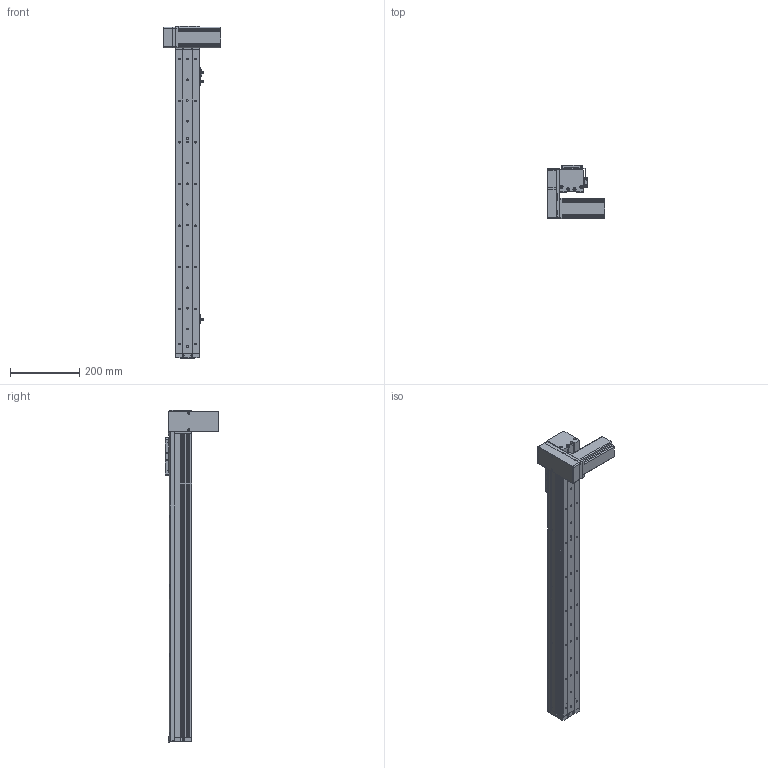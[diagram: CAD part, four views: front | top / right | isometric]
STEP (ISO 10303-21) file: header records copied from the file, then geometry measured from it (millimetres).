
FILE_DESCRIPTION (( 'STEP AP214' ), '1' );
FILE_NAME ('KSD68BS-S700-MRD-CR.STEP', '2019-08-28T02:23:51', ( '微软用户' ), ( '微软中国' ), 'SwSTEP 2.0', 'SolidWorks 2014', '' );
FILE_SCHEMA (( 'AUTOMOTIVE_DESIGN' ));
Length unit declared in the file: millimetre
Products named in the file (14): 68宽马达安装板连板上折同步带; 感应片68宽全封闭; U倰嫖萇EEㄜSX672; 台达ECMA－C20604AS伺服电机（400W); KSD68BS 700行程底板全封闭; KSD68BS-S700-MRD-CR; 68遵裔啣揤啣1; KSD68BS 700行程盖板全封闭; 68宽单导轨全封闭丝杆传动安装板1防护罩; KSD68BS 700行程侧板全封闭; 68宽单导轨全封闭同步带端板; 68单导轨全封闭同步带电机座右; 68单导轨全封闭同步带安装板; 悵誘欶奻狟殏
Assembly tree (17 placements, depth 2):
  KSD68BS-S700-MRD-CR
    KSD68BS 700行程底板全封闭
    台达ECMA－C20604AS伺服电机（400W)
    U倰嫖萇EEㄜSX672  x3
    感应片68宽全封闭
    68宽马达安装板连板上折同步带
    悵誘欶奻狟殏
    68单导轨全封闭同步带安装板
    68单导轨全封闭同步带电机座右
    68宽单导轨全封闭同步带端板
    KSD68BS 700行程侧板全封闭  x2
    68宽单导轨全封闭丝杆传动安装板1防护罩
    68遵裔啣揤啣1  x2
    KSD68BS 700行程盖板全封闭
Bounding box: 167.2 x 155.5 x 958.1 mm (x, y, z)
Volume: 2133060.8 mm3; surface area: 781401.4 mm2
Topology: 18 solids, 18 shells, 1456 faces, 4125 edges, 2643 vertices
Faces by surface type: cylinder 677, plane 627, cone 152
Entity records: 45710 total; most frequent: CARTESIAN_POINT 7747, DIRECTION 6883, ORIENTED_EDGE 6586, EDGE_CURVE 3293, AXIS2_PLACEMENT_3D 2469, VERTEX_POINT 2161, LINE 1945, VECTOR 1945
